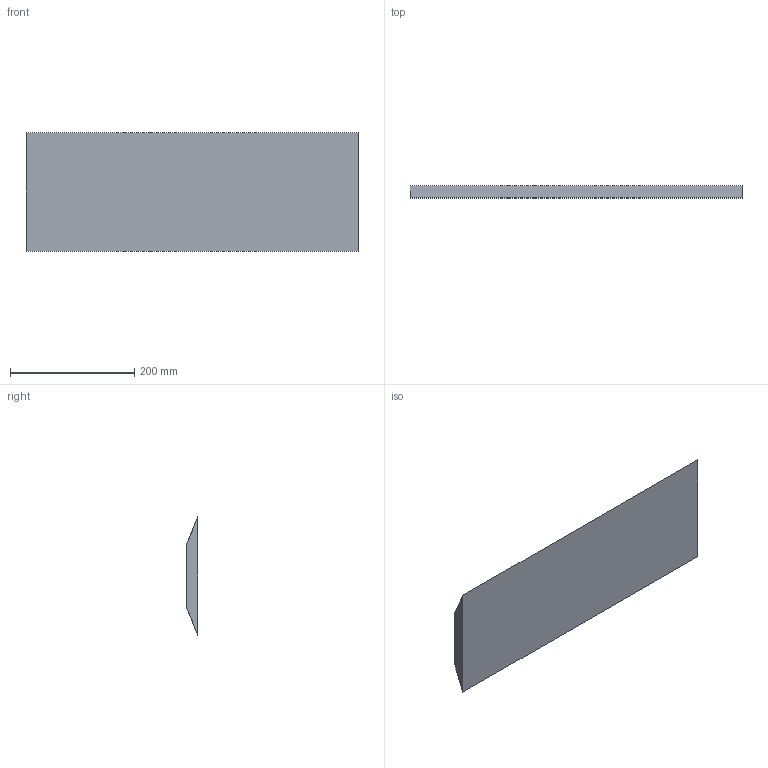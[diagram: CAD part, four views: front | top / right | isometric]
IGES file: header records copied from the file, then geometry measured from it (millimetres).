
Start section:  PTC IGES file: C:\Documents and Settings\Brad\Desktop\IGES\panel_bottom _corner.igs
Global section: file name: C:\Documents and Settings\Brad\Desktop\IGES\panel_bottom_corner.igs; native system: Brad by Parametric Technology Corporation; preprocessor: 2003250; author: Unknown; organization: PTC; date: 040521.142625; units: inch
Bounding box: 533.4 x 19.05 x 190.5 mm (x, y, z)
Volume: 1468397.3 mm3; surface area: 212773.6 mm2
Topology: 1 solids, 1 shells, 6 faces, 12 edges, 8 vertices
Faces by surface type: bspline 6
